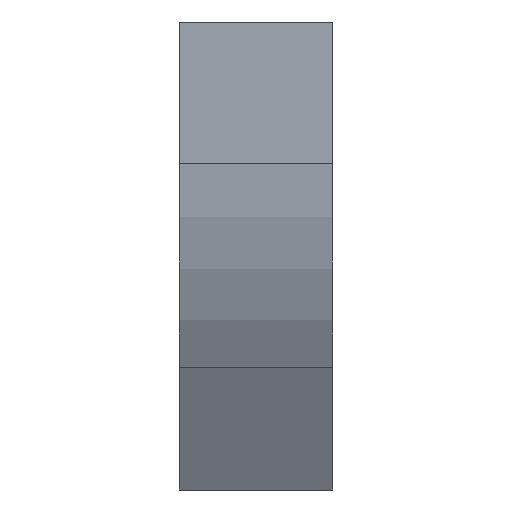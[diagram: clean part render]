
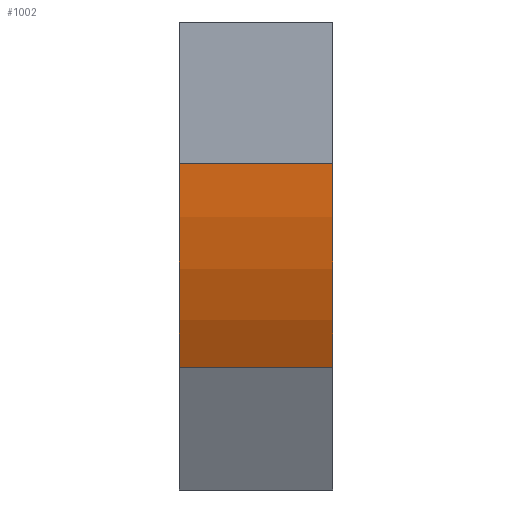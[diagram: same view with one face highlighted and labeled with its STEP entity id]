
A CAD part, left-side view. The second image highlights one B-rep face of the part: STEP entity #1002.
In plain terms, the highlighted cylindrical face has radius 300 mm (diameter 600 mm), a partial arc.
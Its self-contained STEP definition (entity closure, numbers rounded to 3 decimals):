
#2 = CYLINDRICAL_SURFACE ( 'NONE', #39, 300. ) ;
#26 = DIRECTION ( 'NONE',  ( 0., -1., 0. ) ) ;
#39 = AXIS2_PLACEMENT_3D ( 'NONE', #918, #266, #1304 ) ;
#82 = CARTESIAN_POINT ( 'NONE',  ( 300., 0., -103.59 ) ) ;
#100 = EDGE_LOOP ( 'NONE', ( #604, #940, #843, #1390 ) ) ;
#145 = CARTESIAN_POINT ( 'NONE',  ( 40.192, 112.5, -253.59 ) ) ;
#234 = CARTESIAN_POINT ( 'NONE',  ( 0., 112.5, -103.59 ) ) ;
#266 = DIRECTION ( 'NONE',  ( 0., -1., 0. ) ) ;
#281 = DIRECTION ( 'NONE',  ( -1., 0., 0. ) ) ;
#373 = EDGE_CURVE ( 'NONE', #545, #1487, #1094, .T. ) ;
#543 = DIRECTION ( 'NONE',  ( 0., -1., 0. ) ) ;
#545 = VERTEX_POINT ( 'NONE', #234 ) ;
#564 = VERTEX_POINT ( 'NONE', #145 ) ;
#604 = ORIENTED_EDGE ( 'NONE', *, *, #710, .F. ) ;
#620 = CIRCLE ( 'NONE', #1568, 300. ) ;
#624 = EDGE_CURVE ( 'NONE', #545, #564, #620, .T. ) ;
#640 = CARTESIAN_POINT ( 'NONE',  ( 40.192, 0., -253.59 ) ) ;
#710 = EDGE_CURVE ( 'NONE', #1487, #1336, #1515, .T. ) ;
#759 = VECTOR ( 'NONE', #26, 1000. ) ;
#843 = ORIENTED_EDGE ( 'NONE', *, *, #624, .T. ) ;
#846 = DIRECTION ( 'NONE',  ( -1., 0., 0. ) ) ;
#848 = CARTESIAN_POINT ( 'NONE',  ( 0., 0., -103.59 ) ) ;
#895 = CARTESIAN_POINT ( 'NONE',  ( 300., 112.5, -103.59 ) ) ;
#918 = CARTESIAN_POINT ( 'NONE',  ( 300., 0., -103.59 ) ) ;
#940 = ORIENTED_EDGE ( 'NONE', *, *, #373, .F. ) ;
#1002 = ADVANCED_FACE ( 'NONE', ( #1028 ), #2, .T. ) ;
#1004 = EDGE_CURVE ( 'NONE', #564, #1336, #1564, .T. ) ;
#1028 = FACE_OUTER_BOUND ( 'NONE', #100, .T. ) ;
#1094 = LINE ( 'NONE', #848, #1245 ) ;
#1147 = CARTESIAN_POINT ( 'NONE',  ( 40.192, 0., -253.59 ) ) ;
#1245 = VECTOR ( 'NONE', #1637, 1000. ) ;
#1255 = CARTESIAN_POINT ( 'NONE',  ( 0., 0., -103.59 ) ) ;
#1304 = DIRECTION ( 'NONE',  ( 0., 0., -1. ) ) ;
#1326 = AXIS2_PLACEMENT_3D ( 'NONE', #82, #1350, #846 ) ;
#1336 = VERTEX_POINT ( 'NONE', #1147 ) ;
#1350 = DIRECTION ( 'NONE',  ( 0., -1., 0. ) ) ;
#1390 = ORIENTED_EDGE ( 'NONE', *, *, #1004, .T. ) ;
#1487 = VERTEX_POINT ( 'NONE', #1255 ) ;
#1515 = CIRCLE ( 'NONE', #1326, 300. ) ;
#1564 = LINE ( 'NONE', #640, #759 ) ;
#1568 = AXIS2_PLACEMENT_3D ( 'NONE', #895, #543, #281 ) ;
#1637 = DIRECTION ( 'NONE',  ( 0., -1., 0. ) ) ;
